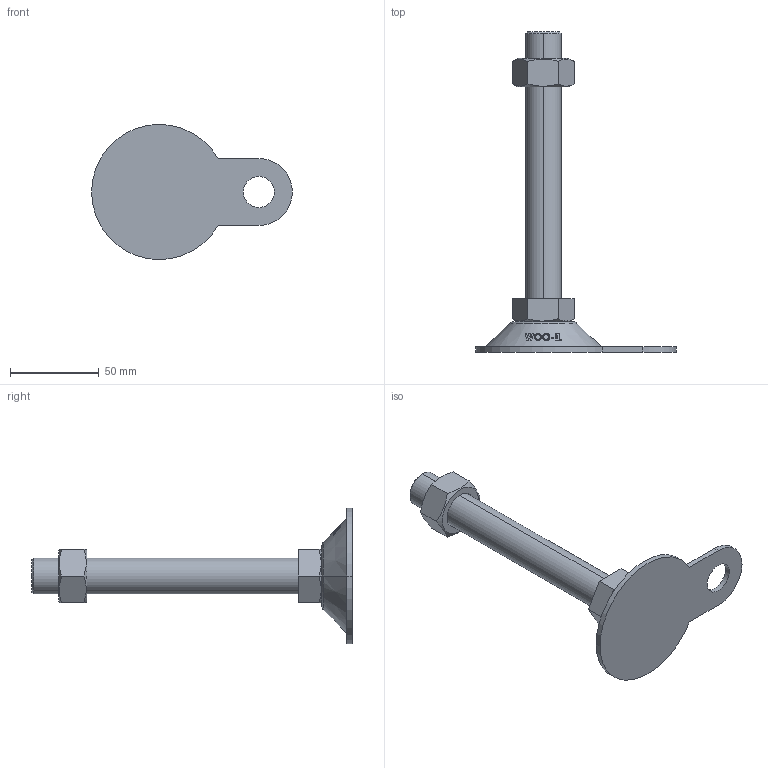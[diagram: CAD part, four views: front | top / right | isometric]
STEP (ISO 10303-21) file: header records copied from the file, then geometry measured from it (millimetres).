
FILE_DESCRIPTION (( 'STEP AP214' ), '1' );
FILE_NAME ('ABL76-M20-150.step', '2021-02-05T04:20:47', ( '' ), ( '' ), 'SwSTEP 2.0', 'SolidWorks 2019', '' );
FILE_SCHEMA (( 'AUTOMOTIVE_DESIGN' ));
Length unit declared in the file: millimetre
Products named in the file (2): ABL76-M20-150
Bounding box: 112.8 x 180 x 76 mm (x, y, z)
Volume: 110002 mm3; surface area: 27598.9 mm2
Topology: 2 solids, 2 shells, 128 faces, 329 edges, 216 vertices
Faces by surface type: plane 48, cylinder 38, cone 22, bspline 18, torus 2
Entity records: 5519 total; most frequent: CARTESIAN_POINT 2613, ORIENTED_EDGE 658, DIRECTION 473, EDGE_CURVE 329, VERTEX_POINT 216, AXIS2_PLACEMENT_3D 176, B_SPLINE_CURVE_WITH_KNOTS 144, EDGE_LOOP 143
